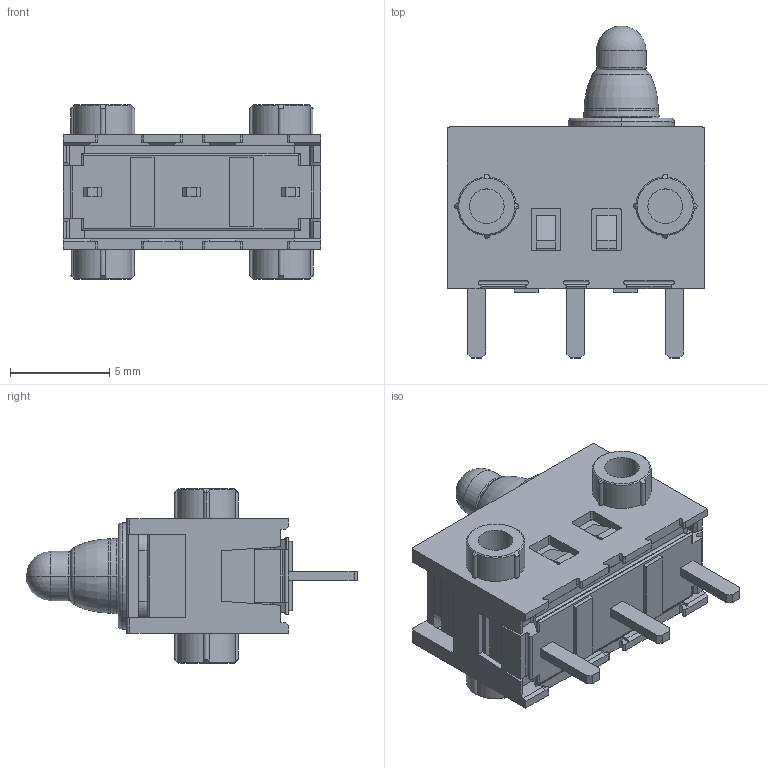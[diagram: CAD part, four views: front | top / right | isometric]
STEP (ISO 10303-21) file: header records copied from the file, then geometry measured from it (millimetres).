
FILE_DESCRIPTION (( 'STEP AP214' ), '1' );
FILE_NAME ('SPVQ380100.STEP', '2011-03-19T07:44:38', ( '' ), ( '' ), 'SwSTEP 2.0', 'SolidWorks 2007', '' );
FILE_SCHEMA (( 'AUTOMOTIVE_DESIGN' ));
Length unit declared in the file: millimetre
Products named in the file (1): SPVQ380100
Bounding box: 13 x 16.75 x 8.8 mm (x, y, z)
Volume: 633.6 mm3; surface area: 1097.4 mm2
Topology: 1 solids, 1 shells, 428 faces, 1191 edges, 772 vertices
Faces by surface type: plane 240, cylinder 156, torus 18, cone 12, sphere 2
Entity records: 18510 total; most frequent: CARTESIAN_POINT 2637, ORIENTED_EDGE 2374, DIRECTION 2304, EDGE_CURVE 1187, VECTOR 814, LINE 814, VERTEX_POINT 770, AXIS2_PLACEMENT_3D 745
